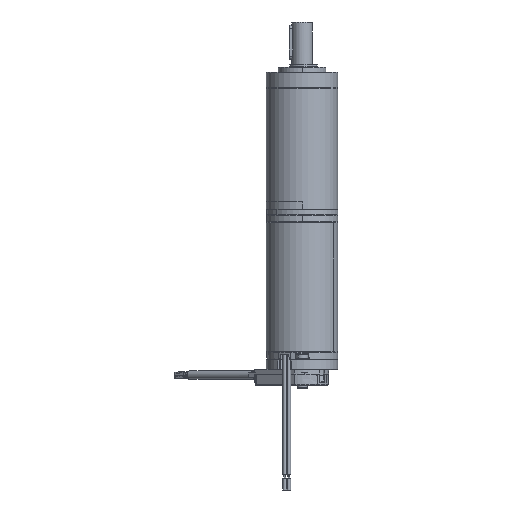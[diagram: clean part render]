
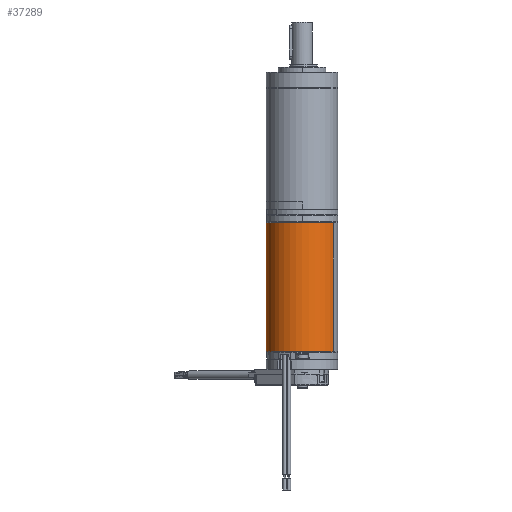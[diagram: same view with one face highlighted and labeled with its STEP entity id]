
A CAD part, left-side view. The second image highlights one B-rep face of the part: STEP entity #37289.
In plain terms, the highlighted cylindrical face has radius 21 mm (diameter 42 mm), a partial arc.
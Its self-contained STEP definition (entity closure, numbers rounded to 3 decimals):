
#1613 = ORIENTED_EDGE ( 'NONE', *, *, #72008, .F. ) ;
#4376 = EDGE_LOOP ( 'NONE', ( #1613, #164789, #160381, #36606 ) ) ;
#6562 = EDGE_CURVE ( 'NONE', #16956, #103677, #73473, .T. ) ;
#7016 = FACE_OUTER_BOUND ( 'NONE', #4376, .T. ) ;
#10835 = DIRECTION ( 'NONE',  ( 0., 0., -1. ) ) ;
#11725 = LINE ( 'NONE', #148256, #56403 ) ;
#11945 = CARTESIAN_POINT ( 'NONE',  ( -5.29, -26.831, -13.915 ) ) ;
#16956 = VERTEX_POINT ( 'NONE', #147904 ) ;
#21130 = AXIS2_PLACEMENT_3D ( 'NONE', #34229, #89769, #145354 ) ;
#34229 = CARTESIAN_POINT ( 'NONE',  ( 5.131, -8.599, 61.785 ) ) ;
#36606 = ORIENTED_EDGE ( 'NONE', *, *, #48072, .T. ) ;
#36951 = CARTESIAN_POINT ( 'NONE',  ( 5.131, -8.599, 7.935 ) ) ;
#37289 = ADVANCED_FACE ( 'NONE', ( #7016 ), #62555, .T. ) ;
#39618 = DIRECTION ( 'NONE',  ( 0., 0., -1. ) ) ;
#48072 = EDGE_CURVE ( 'NONE', #178778, #137847, #53994, .T. ) ;
#51985 = CARTESIAN_POINT ( 'NONE',  ( 15.552, 9.632, -13.915 ) ) ;
#53994 = CIRCLE ( 'NONE', #164391, 21. ) ;
#56403 = VECTOR ( 'NONE', #10835, 1000. ) ;
#56679 = EDGE_CURVE ( 'NONE', #103677, #178778, #11725, .T. ) ;
#62555 = CYLINDRICAL_SURFACE ( 'NONE', #109710, 21. ) ;
#72008 = EDGE_CURVE ( 'NONE', #16956, #137847, #77866, .T. ) ;
#73473 = CIRCLE ( 'NONE', #21130, 21. ) ;
#77866 = LINE ( 'NONE', #161506, #87322 ) ;
#79373 = DIRECTION ( 'NONE',  ( -0.496, -0.868, 0. ) ) ;
#87322 = VECTOR ( 'NONE', #177802, 1000. ) ;
#89769 = DIRECTION ( 'NONE',  ( 0., 0., -1. ) ) ;
#103677 = VERTEX_POINT ( 'NONE', #147065 ) ;
#109710 = AXIS2_PLACEMENT_3D ( 'NONE', #36951, #39618, #149831 ) ;
#121179 = DIRECTION ( 'NONE',  ( 0., 0., 1. ) ) ;
#137847 = VERTEX_POINT ( 'NONE', #11945 ) ;
#145354 = DIRECTION ( 'NONE',  ( -0.496, -0.868, 0. ) ) ;
#147065 = CARTESIAN_POINT ( 'NONE',  ( 15.552, 9.632, 61.785 ) ) ;
#147904 = CARTESIAN_POINT ( 'NONE',  ( -5.29, -26.831, 61.785 ) ) ;
#148256 = CARTESIAN_POINT ( 'NONE',  ( 15.552, 9.632, 7.935 ) ) ;
#148519 = CARTESIAN_POINT ( 'NONE',  ( 5.131, -8.599, -13.915 ) ) ;
#149831 = DIRECTION ( 'NONE',  ( 0.496, 0.868, 0. ) ) ;
#160381 = ORIENTED_EDGE ( 'NONE', *, *, #56679, .T. ) ;
#161506 = CARTESIAN_POINT ( 'NONE',  ( -5.29, -26.831, 7.935 ) ) ;
#164391 = AXIS2_PLACEMENT_3D ( 'NONE', #148519, #121179, #79373 ) ;
#164789 = ORIENTED_EDGE ( 'NONE', *, *, #6562, .T. ) ;
#177802 = DIRECTION ( 'NONE',  ( 0., 0., -1. ) ) ;
#178778 = VERTEX_POINT ( 'NONE', #51985 ) ;
